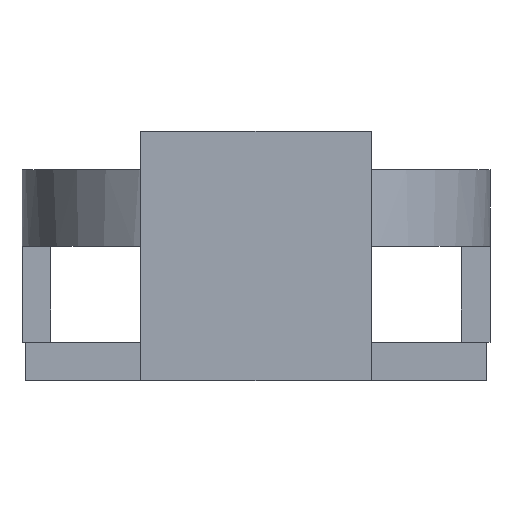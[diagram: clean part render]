
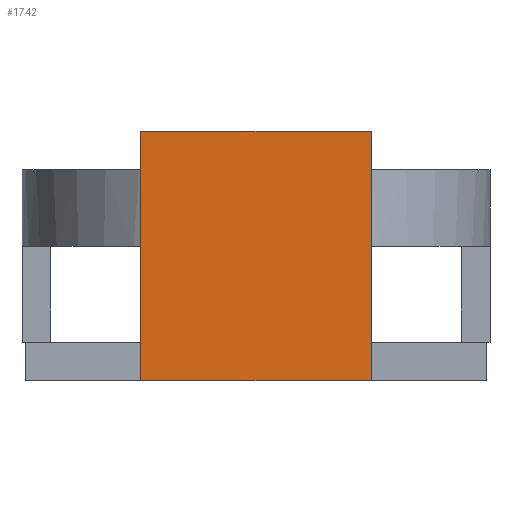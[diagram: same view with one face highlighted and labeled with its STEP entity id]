
A CAD part, front view. The second image highlights one B-rep face of the part: STEP entity #1742.
In plain terms, the highlighted planar face has unit normal (0, -1, 0).
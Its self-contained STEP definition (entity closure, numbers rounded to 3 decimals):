
#44 = PLANE('',#45);
#45 = AXIS2_PLACEMENT_3D('',#46,#47,#48);
#46 = CARTESIAN_POINT('',(0.4,76.,0.));
#47 = DIRECTION('',(0.,0.,-1.));
#48 = DIRECTION('',(1.,0.,0.));
#352 = VERTEX_POINT('',#353);
#353 = CARTESIAN_POINT('',(36.4,0.,0.));
#367 = PLANE('',#368);
#368 = AXIS2_PLACEMENT_3D('',#369,#370,#371);
#369 = CARTESIAN_POINT('',(36.4,24.,26.));
#370 = DIRECTION('',(1.,0.,0.));
#371 = DIRECTION('',(0.,0.,-1.));
#379 = EDGE_CURVE('',#380,#352,#382,.T.);
#380 = VERTEX_POINT('',#381);
#381 = CARTESIAN_POINT('',(12.4,0.,0.));
#382 = SURFACE_CURVE('',#383,(#387,#394),.PCURVE_S1.);
#383 = LINE('',#384,#385);
#384 = CARTESIAN_POINT('',(12.4,0.,0.));
#385 = VECTOR('',#386,1.);
#386 = DIRECTION('',(1.,0.,0.));
#387 = PCURVE('',#44,#388);
#388 = DEFINITIONAL_REPRESENTATION('',(#389),#393);
#389 = LINE('',#390,#391);
#390 = CARTESIAN_POINT('',(12.,76.));
#391 = VECTOR('',#392,1.);
#392 = DIRECTION('',(1.,0.));
#393 = ( GEOMETRIC_REPRESENTATION_CONTEXT(2) 
PARAMETRIC_REPRESENTATION_CONTEXT() REPRESENTATION_CONTEXT('2D SPACE',''
  ) );
#394 = PCURVE('',#395,#400);
#395 = PLANE('',#396);
#396 = AXIS2_PLACEMENT_3D('',#397,#398,#399);
#397 = CARTESIAN_POINT('',(12.4,0.,26.));
#398 = DIRECTION('',(0.,-1.,0.));
#399 = DIRECTION('',(0.,0.,-1.));
#400 = DEFINITIONAL_REPRESENTATION('',(#401),#405);
#401 = LINE('',#402,#403);
#402 = CARTESIAN_POINT('',(26.,0.));
#403 = VECTOR('',#404,1.);
#404 = DIRECTION('',(0.,1.));
#405 = ( GEOMETRIC_REPRESENTATION_CONTEXT(2) 
PARAMETRIC_REPRESENTATION_CONTEXT() REPRESENTATION_CONTEXT('2D SPACE',''
  ) );
#421 = PLANE('',#422);
#422 = AXIS2_PLACEMENT_3D('',#423,#424,#425);
#423 = CARTESIAN_POINT('',(12.4,24.,26.));
#424 = DIRECTION('',(1.,0.,0.));
#425 = DIRECTION('',(0.,0.,-1.));
#1661 = VERTEX_POINT('',#1662);
#1662 = CARTESIAN_POINT('',(12.4,0.,26.));
#1676 = PLANE('',#1677);
#1677 = AXIS2_PLACEMENT_3D('',#1678,#1679,#1680);
#1678 = CARTESIAN_POINT('',(12.4,24.,26.));
#1679 = DIRECTION('',(0.,0.,-1.));
#1680 = DIRECTION('',(1.,0.,0.));
#1688 = EDGE_CURVE('',#1661,#380,#1689,.T.);
#1689 = SURFACE_CURVE('',#1690,(#1694,#1701),.PCURVE_S1.);
#1690 = LINE('',#1691,#1692);
#1691 = CARTESIAN_POINT('',(12.4,0.,26.));
#1692 = VECTOR('',#1693,1.);
#1693 = DIRECTION('',(0.,0.,-1.));
#1694 = PCURVE('',#421,#1695);
#1695 = DEFINITIONAL_REPRESENTATION('',(#1696),#1700);
#1696 = LINE('',#1697,#1698);
#1697 = CARTESIAN_POINT('',(0.,-24.));
#1698 = VECTOR('',#1699,1.);
#1699 = DIRECTION('',(1.,0.));
#1700 = ( GEOMETRIC_REPRESENTATION_CONTEXT(2) 
PARAMETRIC_REPRESENTATION_CONTEXT() REPRESENTATION_CONTEXT('2D SPACE',''
  ) );
#1701 = PCURVE('',#395,#1702);
#1702 = DEFINITIONAL_REPRESENTATION('',(#1703),#1707);
#1703 = LINE('',#1704,#1705);
#1704 = CARTESIAN_POINT('',(0.,0.));
#1705 = VECTOR('',#1706,1.);
#1706 = DIRECTION('',(1.,0.));
#1707 = ( GEOMETRIC_REPRESENTATION_CONTEXT(2) 
PARAMETRIC_REPRESENTATION_CONTEXT() REPRESENTATION_CONTEXT('2D SPACE',''
  ) );
#1742 = ADVANCED_FACE('',(#1743),#395,.T.);
#1743 = FACE_BOUND('',#1744,.T.);
#1744 = EDGE_LOOP('',(#1745,#1768,#1769,#1770));
#1745 = ORIENTED_EDGE('',*,*,#1746,.F.);
#1746 = EDGE_CURVE('',#1661,#1747,#1749,.T.);
#1747 = VERTEX_POINT('',#1748);
#1748 = CARTESIAN_POINT('',(36.4,0.,26.));
#1749 = SURFACE_CURVE('',#1750,(#1754,#1761),.PCURVE_S1.);
#1750 = LINE('',#1751,#1752);
#1751 = CARTESIAN_POINT('',(12.4,0.,26.));
#1752 = VECTOR('',#1753,1.);
#1753 = DIRECTION('',(1.,0.,0.));
#1754 = PCURVE('',#395,#1755);
#1755 = DEFINITIONAL_REPRESENTATION('',(#1756),#1760);
#1756 = LINE('',#1757,#1758);
#1757 = CARTESIAN_POINT('',(0.,0.));
#1758 = VECTOR('',#1759,1.);
#1759 = DIRECTION('',(0.,1.));
#1760 = ( GEOMETRIC_REPRESENTATION_CONTEXT(2) 
PARAMETRIC_REPRESENTATION_CONTEXT() REPRESENTATION_CONTEXT('2D SPACE',''
  ) );
#1761 = PCURVE('',#1676,#1762);
#1762 = DEFINITIONAL_REPRESENTATION('',(#1763),#1767);
#1763 = LINE('',#1764,#1765);
#1764 = CARTESIAN_POINT('',(0.,24.));
#1765 = VECTOR('',#1766,1.);
#1766 = DIRECTION('',(1.,0.));
#1767 = ( GEOMETRIC_REPRESENTATION_CONTEXT(2) 
PARAMETRIC_REPRESENTATION_CONTEXT() REPRESENTATION_CONTEXT('2D SPACE',''
  ) );
#1768 = ORIENTED_EDGE('',*,*,#1688,.T.);
#1769 = ORIENTED_EDGE('',*,*,#379,.T.);
#1770 = ORIENTED_EDGE('',*,*,#1771,.F.);
#1771 = EDGE_CURVE('',#1747,#352,#1772,.T.);
#1772 = SURFACE_CURVE('',#1773,(#1777,#1784),.PCURVE_S1.);
#1773 = LINE('',#1774,#1775);
#1774 = CARTESIAN_POINT('',(36.4,0.,26.));
#1775 = VECTOR('',#1776,1.);
#1776 = DIRECTION('',(0.,0.,-1.));
#1777 = PCURVE('',#395,#1778);
#1778 = DEFINITIONAL_REPRESENTATION('',(#1779),#1783);
#1779 = LINE('',#1780,#1781);
#1780 = CARTESIAN_POINT('',(0.,24.));
#1781 = VECTOR('',#1782,1.);
#1782 = DIRECTION('',(1.,0.));
#1783 = ( GEOMETRIC_REPRESENTATION_CONTEXT(2) 
PARAMETRIC_REPRESENTATION_CONTEXT() REPRESENTATION_CONTEXT('2D SPACE',''
  ) );
#1784 = PCURVE('',#367,#1785);
#1785 = DEFINITIONAL_REPRESENTATION('',(#1786),#1790);
#1786 = LINE('',#1787,#1788);
#1787 = CARTESIAN_POINT('',(0.,-24.));
#1788 = VECTOR('',#1789,1.);
#1789 = DIRECTION('',(1.,0.));
#1790 = ( GEOMETRIC_REPRESENTATION_CONTEXT(2) 
PARAMETRIC_REPRESENTATION_CONTEXT() REPRESENTATION_CONTEXT('2D SPACE',''
  ) );
